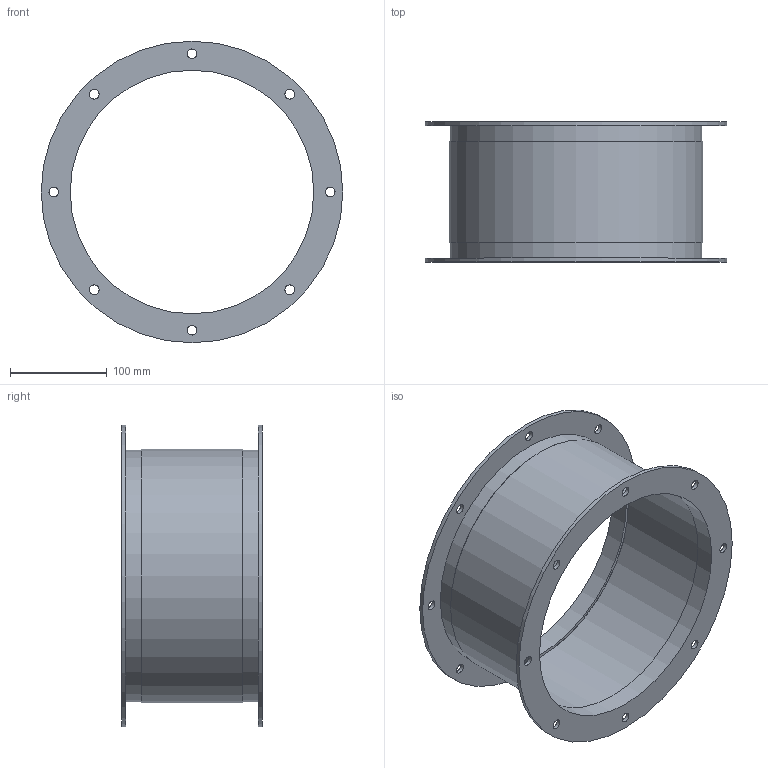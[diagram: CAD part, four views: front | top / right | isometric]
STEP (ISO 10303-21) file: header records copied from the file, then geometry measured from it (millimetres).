
FILE_DESCRIPTION(/* description */ (''),/* implementation_level */ '2;1');
FILE_NAME(/* name */ 'Z:\Output\STS_250_EX-02501-001.stp',/* time_stamp */ '2017-05-14T01:35:17+02:00',/* author */ ('engineering1'),/* organization */ (''),/* preprocessor_version */ 'ST-DEVELOPER v16.5',/* originating_system */ 'Autodesk Inventor 2017',/* authorisation */ '');
FILE_SCHEMA (('AUTOMOTIVE_DESIGN { 1 0 10303 214 3 1 1 }'));
Length unit declared in the file: millimetre
Products named in the file (1): STS-1
Bounding box: 312 x 145 x 312 mm (x, y, z)
Volume: 482071.1 mm3; surface area: 342999.1 mm2
Topology: 1 solids, 1 shells, 32 faces, 82 edges, 58 vertices
Faces by surface type: cylinder 24, plane 8
Full cylindrical faces by diameter (mm): 10 x16, 252 x2, 258 x1, 260 x2, 262 x1, 312 x2
Entity records: 913 total; most frequent: DIRECTION 162, CARTESIAN_POINT 129, EDGE_LOOP 96, ORIENTED_EDGE 96, AXIS2_PLACEMENT_3D 81, FACE_BOUND 64, CIRCLE 48, VERTEX_POINT 48
